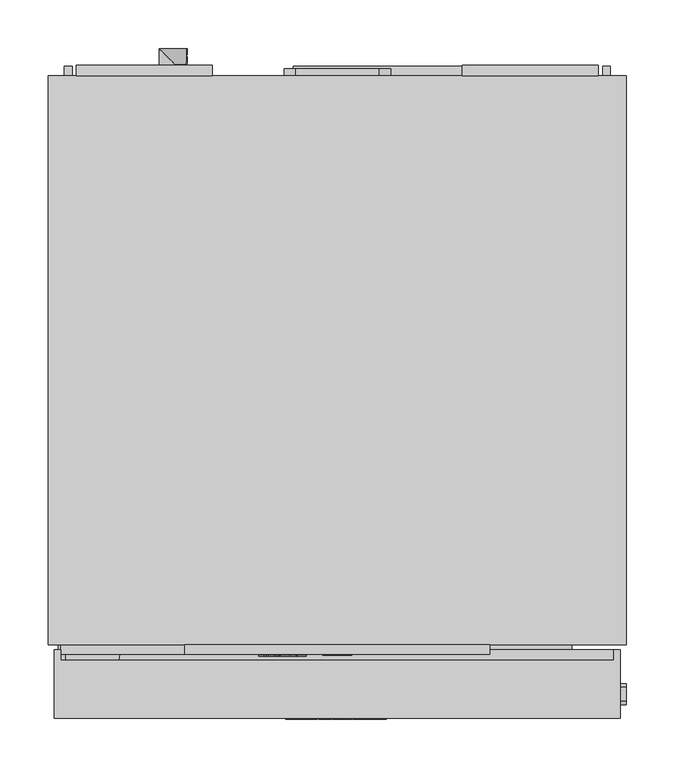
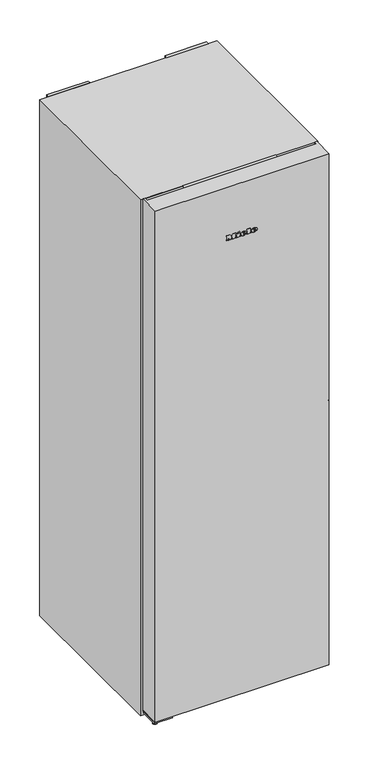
"""IFC4 building model written with IfcOpenShell, lengths in millimetres: proxy geometry, 12430730_EU1_FNS4782D_OBSWMATT : 37478248_EU1_12430730_FNS4782D_OBSWMATT."""

from ifc_helpers import new_model, si_unit, point, frame, frame_2d, origin, origin_with_axes, place, context, project, spatial, polyline, circle_curve, ellipse_curve, trimmed, segment, composite_curve, outline, extrude, faceted_brep, source, transform, mapped, element, save
from ifc_brep_helpers import plane_surface, cylinder_surface, revolved_surface, extruded_surface, advanced_brep


def specialty_equipment_b1ce785e(model_context):
    return source(origin(), model_context, "Body", "SolidModel", [
        extrude(outline(polyline([(15.0, -609.5), (-15.0, -609.5), (-15.0, -606.5), (15.0, -606.5), (15.0, -609.5)])), frame((0.0, 0.0, 1812.0), z_axis=(0.0, 0.0, 1.0), x_axis=(1.0, 0.0, 0.0)), (0.0, 0.0, 1.0), 28.0),
        extrude(outline(polyline([(1845.5, 105.0), (1845.5, -105.0), (1806.5, -105.0), (1806.5, 105.0), (1845.5, 105.0)]), holes=[polyline([(1840.0, -15.0), (1840.0, 15.0), (1812.0, 15.0), (1812.0, -15.0), (1840.0, -15.0)])]), frame((0.0, -608.5, 0.0), z_axis=(0.0, 1.0, 0.0), x_axis=(0.0, 0.0, 1.0)), (0.0, 0.0, 1.0), 2.0),
        faceted_brep([(157.5, -598.5, 1802.0), (157.5, -608.5, 1802.0), (-157.5, -608.5, 1802.0), (-157.5, -598.5, 1802.0), (157.5, -598.5, 1850.0), (-157.5, -598.5, 1850.0), (-157.5, -608.5, 1850.0), (157.5, -608.5, 1850.0), (-105.0, -608.5, 1845.5), (105.0, -608.5, 1845.5), (105.0, -608.5, 1806.5), (-105.0, -608.5, 1806.5), (105.0, -606.5, 1845.5), (-105.0, -606.5, 1845.5), (-105.0, -606.5, 1806.5), (105.0, -606.5, 1806.5)], [[[0, 1, 2, 3]], [[4, 5, 6, 7]], [[0, 3, 5, 4]], [[3, 2, 6, 5]], [[2, 1, 7, 6], [8, 9, 10, 11]], [[1, 0, 4, 7]], [[12, 13, 14, 15]], [[13, 12, 9, 8]], [[14, 13, 8, 11]], [[15, 14, 11, 10]], [[12, 15, 10, 9]]]),
        advanced_brep(
        [(39.0804776, -675.5, 1668.7956125), (39.0804776, -675.5, 1670.5126125), (50.4534776, -675.5, 1670.5126125), (30.6654776, -675.5, 1670.5126125), (35.3404776, -675.5, 1664.7666125), (50.1644776, -675.5, 1668.7956125), (45.0304776, -675.5, 1668.7956125), (40.9844776, -675.5, 1666.8916125), (39.0804776, -675.5, 1672.6886125), (39.0804776, -675.5, 1674.5416125), (41.9874776, -675.5, 1674.5416125), (41.9874776, -675.5, 1672.6886125), (39.0804776, -674.5, 1668.7956125), (40.9844776, -674.5, 1666.8916125), (45.0304776, -674.5, 1668.7956125), (50.1644776, -674.5, 1668.7956125), (35.3404776, -674.5, 1664.7666125), (30.6654776, -674.5, 1670.5126125), (50.4534776, -674.5, 1670.5126125), (39.0804776, -674.5, 1670.5126125), (39.0804776, -674.5, 1672.6886125), (41.9874776, -674.5, 1672.6886125), (41.9874776, -674.5, 1674.5416125), (39.0804776, -674.5, 1674.5416125)],
        [
            (0, 1),
            (1, 2),
            (2, 3, ellipse_curve(frame((40.5594776, -675.5, 1670.5126125), z_axis=(0.0, -1.0, 0.0), x_axis=(-1.0, 0.0, 0.0)), 9.894, 8.177)),
            (3, 4, circle_curve(frame((37.2445704, -675.5, 1671.0906125), z_axis=(0.0, -1.0, 0.0), x_axis=(0.0, 0.0, -1.0)), 6.6044337)),
            (4, 5, circle_curve(frame((40.361414, -675.5, 1675.5786125), z_axis=(0.0, -1.0, 0.0), x_axis=(0.0, 0.0, -1.0)), 11.9209541)),
            (5, 6),
            (6, 7, circle_curve(frame((41.8154776, -675.5, 1670.3766125), z_axis=(0.0, 1.0, 0.0), x_axis=(0.0, 0.0, -1.0)), 3.5827065)),
            (7, 0, circle_curve(frame((40.9844776, -675.5, 1668.7956125), z_axis=(0.0, 1.0, 0.0), x_axis=(0.0, 0.0, -1.0)), 1.904)),
            (8, 9),
            (9, 10, circle_curve(frame((40.5339776, -675.5, 1674.5416125), z_axis=(0.0, 1.0, 0.0), x_axis=(0.0, 0.0, -1.0)), 1.4535)),
            (10, 11),
            (11, 8),
            (12, 13, circle_curve(frame((40.9844776, -674.5, 1668.7956125), z_axis=(0.0, -1.0, 0.0), x_axis=(0.0, 0.0, -1.0)), 1.904)),
            (13, 14, circle_curve(frame((41.8154776, -674.5, 1670.3766125), z_axis=(0.0, -1.0, 0.0), x_axis=(0.0, 0.0, -1.0)), 3.5827065)),
            (14, 15),
            (15, 16, circle_curve(frame((40.361414, -674.5, 1675.5786125), z_axis=(0.0, 1.0, 0.0), x_axis=(0.0, 0.0, -1.0)), 11.9209541)),
            (16, 17, circle_curve(frame((37.2445704, -674.5, 1671.0906125), z_axis=(0.0, 1.0, 0.0), x_axis=(0.0, 0.0, -1.0)), 6.6044337)),
            (17, 18, ellipse_curve(frame((40.5594776, -674.5, 1670.5126125), z_axis=(0.0, 1.0, 0.0), x_axis=(-1.0, 0.0, 0.0)), 9.894, 8.177)),
            (18, 19),
            (19, 12),
            (20, 21),
            (21, 22),
            (22, 23, circle_curve(frame((40.5339776, -674.5, 1674.5416125), z_axis=(0.0, -1.0, 0.0), x_axis=(0.0, 0.0, -1.0)), 1.4535)),
            (23, 20),
            (0, 12),
            (19, 1),
            (18, 2),
            (5, 15),
            (14, 6),
            (17, 3),
            (13, 7),
            (16, 4),
            (8, 20),
            (23, 9),
            (22, 10),
            (21, 11),
        ],
        [
            plane_surface(frame((39.0804776, -675.5, 1670.5126125), z_axis=(0.0, -1.0, 0.0), x_axis=(0.0, 0.0, 1.0))),
            plane_surface(frame((39.0804776, -674.5, 1670.5126125), z_axis=(0.0, 1.0, 0.0), x_axis=(0.0, 0.0, -1.0))),
            plane_surface(frame((39.0804776, -675.5, 1668.7956125), z_axis=(1.0, 0.0, 0.0), x_axis=(0.0, 1.0, 0.0))),
            plane_surface(frame((39.0804776, -675.5, 1670.5126125), z_axis=(0.0, 0.0, -1.0), x_axis=(0.0, 1.0, 0.0))),
            plane_surface(frame((50.1644776, -675.5, 1668.7956125), z_axis=(0.0, 0.0, 1.0), x_axis=(0.0, 1.0, 0.0))),
            extruded_surface(trimmed(ellipse_curve(frame((40.5594776, -673.5, 1670.5126125), z_axis=(0.0, -1.0, 0.0), x_axis=(-1.0, 0.0, 0.0)), 9.894, 8.177), [point((50.4534776, -673.5, 1670.5126125))], [point((30.6654776, -673.5, 1670.5126125))], True, "CARTESIAN"), (0.0, -1.0, 0.0), 1.0),
            revolved_surface(polyline([(41.8154776, -674.5, 1666.7939059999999), (41.8154776, -675.5, 1666.7939059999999)]), (41.8154776, -674.5, 1670.3766125), (0.0, 1.0, 0.0)),
            revolved_surface(polyline([(40.9844776, -674.5, 1666.8916125), (40.9844776, -675.5, 1666.8916125)]), (40.9844776, -674.5, 1668.7956125), (0.0, 1.0, 0.0)),
            cylinder_surface(frame((37.2445704, -674.5, 1671.0906125), z_axis=(0.0, -1.0, 0.0), x_axis=(0.0, 0.0, -1.0)), 6.6044337),
            cylinder_surface(frame((40.361414, -674.5, 1675.5786125), z_axis=(0.0, -1.0, 0.0), x_axis=(0.0, 0.0, -1.0)), 11.9209541),
            plane_surface(frame((39.0804776, -675.5, 1672.6886125), z_axis=(1.0, 0.0, 0.0), x_axis=(0.0, 1.0, 0.0))),
            revolved_surface(polyline([(40.5339776, -674.5, 1673.0881124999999), (40.5339776, -675.5, 1673.0881124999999)]), (40.5339776, -674.5, 1674.5416125), (0.0, 1.0, 0.0)),
            plane_surface(frame((41.9874776, -675.5, 1674.5416125), z_axis=(-1.0, 0.0, 0.0), x_axis=(0.0, 1.0, 0.0))),
            plane_surface(frame((41.9874776, -675.5, 1672.6886125), z_axis=(0.0, 0.0, 1.0), x_axis=(0.0, 1.0, 0.0))),
        ],
        [
            (0, [[1, 2, 3, 4, 5, 6, 7, 8], [9, 10, 11, 12]]),
            (1, [[13, 14, 15, 16, 17, 18, 19, 20], [21, 22, 23, 24]]),
            (2, [[-1, 25, -20, 26]]),
            (3, [[-2, -26, -19, 27]]),
            (4, [[-6, 28, -15, 29]]),
            (5, [[-3, -27, -18, 30]]),
            (6, [[-7, -29, -14, 31]]),
            (7, [[-8, -31, -13, -25]]),
            (8, [[-4, -30, -17, 32]]),
            (9, [[-5, -32, -16, -28]]),
            (10, [[-9, 33, -24, 34]]),
            (11, [[-10, -34, -23, 35]]),
            (12, [[-11, -35, -22, 36]]),
            (13, [[-12, -36, -21, -33]]),
        ],
    ),
        advanced_brep(
        [(3.6014776, -675.5, 1668.7956125), (3.6014776, -675.5, 1670.5126125), (14.9744776, -675.5, 1670.5126125), (-4.8135224, -675.5, 1670.5126125), (-0.1385224, -675.5, 1664.7666125), (14.6854776, -675.5, 1668.7956125), (9.5514776, -675.5, 1668.7956125), (5.5054776, -675.5, 1666.8916125), (3.6014776, -675.5, 1672.6886125), (3.6014776, -675.5, 1674.5416125), (6.5084776, -675.5, 1674.5416125), (6.5084776, -675.5, 1672.6886125), (3.6014776, -674.5, 1668.7956125), (5.5054776, -674.5, 1666.8916125), (9.5514776, -674.5, 1668.7956125), (14.6854776, -674.5, 1668.7956125), (-0.1385224, -674.5, 1664.7666125), (-4.8135224, -674.5, 1670.5126125), (14.9744776, -674.5, 1670.5126125), (3.6014776, -674.5, 1670.5126125), (3.6014776, -674.5, 1672.6886125), (6.5084776, -674.5, 1672.6886125), (6.5084776, -674.5, 1674.5416125), (3.6014776, -674.5, 1674.5416125)],
        [
            (0, 1),
            (1, 2),
            (2, 3, ellipse_curve(frame((5.0804776, -675.5, 1670.5126125), z_axis=(0.0, -1.0, 0.0), x_axis=(-1.0, 0.0, 0.0)), 9.894, 8.177)),
            (3, 4, circle_curve(frame((1.7655704, -675.5, 1671.0906125), z_axis=(0.0, -1.0, 0.0), x_axis=(0.0, 0.0, -1.0)), 6.6044337)),
            (4, 5, circle_curve(frame((4.882414, -675.5, 1675.5786125), z_axis=(0.0, -1.0, 0.0), x_axis=(0.0, 0.0, -1.0)), 11.9209541)),
            (5, 6),
            (6, 7, circle_curve(frame((6.3364776, -675.5, 1670.3766125), z_axis=(0.0, 1.0, 0.0), x_axis=(0.0, 0.0, -1.0)), 3.5827065)),
            (7, 0, circle_curve(frame((5.5054776, -675.5, 1668.7956125), z_axis=(0.0, 1.0, 0.0), x_axis=(0.0, 0.0, -1.0)), 1.904)),
            (8, 9),
            (9, 10, circle_curve(frame((5.0549776, -675.5, 1674.5416125), z_axis=(0.0, 1.0, 0.0), x_axis=(0.0, 0.0, -1.0)), 1.4535)),
            (10, 11),
            (11, 8),
            (12, 13, circle_curve(frame((5.5054776, -674.5, 1668.7956125), z_axis=(0.0, -1.0, 0.0), x_axis=(0.0, 0.0, -1.0)), 1.904)),
            (13, 14, circle_curve(frame((6.3364776, -674.5, 1670.3766125), z_axis=(0.0, -1.0, 0.0), x_axis=(0.0, 0.0, -1.0)), 3.5827065)),
            (14, 15),
            (15, 16, circle_curve(frame((4.882414, -674.5, 1675.5786125), z_axis=(0.0, 1.0, 0.0), x_axis=(0.0, 0.0, -1.0)), 11.9209541)),
            (16, 17, circle_curve(frame((1.7655704, -674.5, 1671.0906125), z_axis=(0.0, 1.0, 0.0), x_axis=(0.0, 0.0, -1.0)), 6.6044337)),
            (17, 18, ellipse_curve(frame((5.0804776, -674.5, 1670.5126125), z_axis=(0.0, 1.0, 0.0), x_axis=(-1.0, 0.0, 0.0)), 9.894, 8.177)),
            (18, 19),
            (19, 12),
            (20, 21),
            (21, 22),
            (22, 23, circle_curve(frame((5.0549776, -674.5, 1674.5416125), z_axis=(0.0, -1.0, 0.0), x_axis=(0.0, 0.0, -1.0)), 1.4535)),
            (23, 20),
            (0, 12),
            (19, 1),
            (18, 2),
            (5, 15),
            (14, 6),
            (17, 3),
            (13, 7),
            (16, 4),
            (8, 20),
            (23, 9),
            (22, 10),
            (21, 11),
        ],
        [
            plane_surface(frame((3.6014776, -675.5, 1670.5126125), z_axis=(0.0, -1.0, 0.0), x_axis=(0.0, 0.0, 1.0))),
            plane_surface(frame((3.6014776, -674.5, 1670.5126125), z_axis=(0.0, 1.0, 0.0), x_axis=(0.0, 0.0, -1.0))),
            plane_surface(frame((3.6014776, -675.5, 1668.7956125), z_axis=(1.0, 0.0, 0.0), x_axis=(0.0, 1.0, 0.0))),
            plane_surface(frame((3.6014776, -675.5, 1670.5126125), z_axis=(0.0, 0.0, -1.0), x_axis=(0.0, 1.0, 0.0))),
            plane_surface(frame((14.6854776, -675.5, 1668.7956125), z_axis=(0.0, 0.0, 1.0), x_axis=(0.0, 1.0, 0.0))),
            extruded_surface(trimmed(ellipse_curve(frame((5.0804776, -673.5, 1670.5126125), z_axis=(0.0, -1.0, 0.0), x_axis=(-1.0, 0.0, 0.0)), 9.894, 8.177), [point((14.9744776, -673.5, 1670.5126125))], [point((-4.8135224, -673.5, 1670.5126125))], True, "CARTESIAN"), (0.0, -1.0, 0.0), 1.0),
            revolved_surface(polyline([(6.3364776, -674.5, 1666.7939059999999), (6.3364776, -675.5, 1666.7939059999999)]), (6.3364776, -674.5, 1670.3766125), (0.0, 1.0, 0.0)),
            revolved_surface(polyline([(5.5054776, -674.5, 1666.8916125), (5.5054776, -675.5, 1666.8916125)]), (5.5054776, -674.5, 1668.7956125), (0.0, 1.0, 0.0)),
            cylinder_surface(frame((1.7655704, -674.5, 1671.0906125), z_axis=(0.0, -1.0, 0.0), x_axis=(0.0, 0.0, -1.0)), 6.6044337),
            cylinder_surface(frame((4.882414, -674.5, 1675.5786125), z_axis=(0.0, -1.0, 0.0), x_axis=(0.0, 0.0, -1.0)), 11.9209541),
            plane_surface(frame((3.6014776, -675.5, 1672.6886125), z_axis=(1.0, 0.0, 0.0), x_axis=(0.0, 1.0, 0.0))),
            revolved_surface(polyline([(5.0549776, -674.5, 1673.0881124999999), (5.0549776, -675.5, 1673.0881124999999)]), (5.0549776, -674.5, 1674.5416125), (0.0, 1.0, 0.0)),
            plane_surface(frame((6.5084776, -675.5, 1674.5416125), z_axis=(-1.0, 0.0, 0.0), x_axis=(0.0, 1.0, 0.0))),
            plane_surface(frame((6.5084776, -675.5, 1672.6886125), z_axis=(0.0, 0.0, 1.0), x_axis=(0.0, 1.0, 0.0))),
        ],
        [
            (0, [[1, 2, 3, 4, 5, 6, 7, 8], [9, 10, 11, 12]]),
            (1, [[13, 14, 15, 16, 17, 18, 19, 20], [21, 22, 23, 24]]),
            (2, [[-1, 25, -20, 26]]),
            (3, [[-2, -26, -19, 27]]),
            (4, [[-6, 28, -15, 29]]),
            (5, [[-3, -27, -18, 30]]),
            (6, [[-7, -29, -14, 31]]),
            (7, [[-8, -31, -13, -25]]),
            (8, [[-4, -30, -17, 32]]),
            (9, [[-5, -32, -16, -28]]),
            (10, [[-9, 33, -24, 34]]),
            (11, [[-10, -34, -23, 35]]),
            (12, [[-11, -35, -22, 36]]),
            (13, [[-12, -36, -21, -33]]),
        ],
    ),
        extrude(outline(polyline([(1680.7636125, -14.9795224), (1678.0096125, -13.6875224), (1680.6956125, -7.9245224), (1683.4496125, -9.1995224), (1680.7636125, -14.9795224)])), frame((0.0, -675.5, 0.0), z_axis=(0.0, 1.0, 0.0), x_axis=(0.0, 0.0, 1.0)), (0.0, 0.0, 1.0), 1.0),
        extrude(outline(polyline([(1677.6356125, -19.1785224), (1674.5926125, -19.1785224), (1674.5926125, -17.1555224), (1667.6226125, -17.1555224), (1667.6226125, -19.1785224), (1664.7666125, -19.1785224), (1664.7666125, -5.7655224), (1667.6226125, -5.7655224), (1667.6226125, -7.7375224), (1677.6356125, -7.7375224), (1677.6356125, -19.1785224)])), frame((0.0, -675.5, 0.0), z_axis=(0.0, 1.0, 0.0), x_axis=(0.0, 0.0, 1.0)), (0.0, 0.0, 1.0), 1.0),
        extrude(outline(polyline([(1678.9956125, 15.9264776), (1678.9956125, 17.9664776), (1667.6226125, 17.9664776), (1667.6226125, 15.9264776), (1664.7666125, 15.9264776), (1664.7666125, 29.7134776), (1667.6226125, 29.7134776), (1667.6226125, 27.6224776), (1681.7666125, 27.6224776), (1681.7666125, 15.9264776), (1678.9956125, 15.9264776)])), frame((0.0, -675.5, 0.0), z_axis=(0.0, 1.0, 0.0), x_axis=(0.0, 0.0, 1.0)), (0.0, 0.0, 1.0), 1.0),
        extrude(outline(polyline([(1678.9956125, -53.0595224), (1678.9956125, -51.0025224), (1667.6226125, -51.0025224), (1667.6226125, -53.0595224), (1664.7666125, -53.0595224), (1664.7666125, -45.5795224), (1667.6226125, -45.5795224), (1667.6226125, -47.6195224), (1674.7967372, -47.6195224), (1664.7666125, -40.0205224), (1675.2068348, -32.3875224), (1667.6226125, -32.3875224), (1667.6226125, -34.4785224), (1664.7666125, -34.4785224), (1664.7666125, -20.9125224), (1667.6226125, -20.9125224), (1667.6226125, -23.0715224), (1678.9956125, -23.0715224), (1678.9956125, -20.9125224), (1681.7666125, -20.9125224), (1681.7666125, -31.2655224), (1675.3916125, -36.2295224), (1681.7666125, -41.2105224), (1681.7666125, -53.0595224), (1678.9956125, -53.0595224)])), frame((0.0, -675.5, 0.0), z_axis=(0.0, 1.0, 0.0), x_axis=(0.0, 0.0, 1.0)), (0.0, 0.0, 1.0), 1.0),
        advanced_brep(
        [(-37.64, -610.5, 1828.896), (-37.64, -610.5, 1829.704), (-32.288, -610.5, 1829.704), (-41.6, -610.5, 1829.704), (-39.4, -610.5, 1827.0), (-32.424, -610.5, 1828.896), (-34.84, -610.5, 1828.896), (-36.744, -610.5, 1828.0), (-37.64, -610.5, 1830.728), (-37.64, -610.5, 1831.6), (-36.272, -610.5, 1831.6), (-36.272, -610.5, 1830.728), (-37.64, -609.5, 1828.896), (-36.744, -609.5, 1828.0), (-34.84, -609.5, 1828.896), (-32.424, -609.5, 1828.896), (-39.4, -609.5, 1827.0), (-41.6, -609.5, 1829.704), (-32.288, -609.5, 1829.704), (-37.64, -609.5, 1829.704), (-37.64, -609.5, 1830.728), (-36.272, -609.5, 1830.728), (-36.272, -609.5, 1831.6), (-37.64, -609.5, 1831.6)],
        [
            (0, 1),
            (1, 2),
            (2, 3, ellipse_curve(frame((-36.944, -610.5, 1829.704), z_axis=(0.0, -1.0, 0.0), x_axis=(-1.0, 0.0, 0.0)), 4.656, 3.848)),
            (3, 4, circle_curve(frame((-38.5039564, -610.5, 1829.976), z_axis=(0.0, -1.0, 0.0), x_axis=(0.0, 0.0, -1.0)), 3.1079688)),
            (4, 5, circle_curve(frame((-37.0372064, -610.5, 1832.088), z_axis=(0.0, -1.0, 0.0), x_axis=(0.0, 0.0, -1.0)), 5.6098607)),
            (5, 6),
            (6, 7, circle_curve(frame((-36.3529412, -610.5, 1829.64), z_axis=(0.0, 1.0, 0.0), x_axis=(0.0, 0.0, -1.0)), 1.6859795)),
            (7, 0, circle_curve(frame((-36.744, -610.5, 1828.896), z_axis=(0.0, 1.0, 0.0), x_axis=(0.0, 0.0, -1.0)), 0.896)),
            (8, 9),
            (9, 10, circle_curve(frame((-36.956, -610.5, 1831.6), z_axis=(0.0, 1.0, 0.0), x_axis=(0.0, 0.0, -1.0)), 0.684)),
            (10, 11),
            (11, 8),
            (12, 13, circle_curve(frame((-36.744, -609.5, 1828.896), z_axis=(0.0, -1.0, 0.0), x_axis=(0.0, 0.0, -1.0)), 0.896)),
            (13, 14, circle_curve(frame((-36.3529412, -609.5, 1829.64), z_axis=(0.0, -1.0, 0.0), x_axis=(0.0, 0.0, -1.0)), 1.6859795)),
            (14, 15),
            (15, 16, circle_curve(frame((-37.0372064, -609.5, 1832.088), z_axis=(0.0, 1.0, 0.0), x_axis=(0.0, 0.0, -1.0)), 5.6098607)),
            (16, 17, circle_curve(frame((-38.5039564, -609.5, 1829.976), z_axis=(0.0, 1.0, 0.0), x_axis=(0.0, 0.0, -1.0)), 3.1079688)),
            (17, 18, ellipse_curve(frame((-36.944, -609.5, 1829.704), z_axis=(0.0, 1.0, 0.0), x_axis=(-1.0, 0.0, 0.0)), 4.656, 3.848)),
            (18, 19),
            (19, 12),
            (20, 21),
            (21, 22),
            (22, 23, circle_curve(frame((-36.956, -609.5, 1831.6), z_axis=(0.0, -1.0, 0.0), x_axis=(0.0, 0.0, -1.0)), 0.684)),
            (23, 20),
            (0, 12),
            (19, 1),
            (18, 2),
            (5, 15),
            (14, 6),
            (17, 3),
            (13, 7),
            (16, 4),
            (8, 20),
            (23, 9),
            (22, 10),
            (21, 11),
        ],
        [
            plane_surface(frame((-37.64, -610.5, 1829.704), z_axis=(0.0, -1.0, 0.0), x_axis=(0.0, 0.0, 1.0))),
            plane_surface(frame((-37.64, -609.5, 1829.704), z_axis=(0.0, 1.0, 0.0), x_axis=(0.0, 0.0, -1.0))),
            plane_surface(frame((-37.64, -610.5, 1828.896), z_axis=(1.0, 0.0, 0.0), x_axis=(0.0, 1.0, 0.0))),
            plane_surface(frame((-37.64, -610.5, 1829.704), z_axis=(0.0, 0.0, -1.0), x_axis=(0.0, 1.0, 0.0))),
            plane_surface(frame((-32.424, -610.5, 1828.896), z_axis=(0.0, 0.0, 1.0), x_axis=(0.0, 1.0, 0.0))),
            extruded_surface(trimmed(ellipse_curve(frame((-36.944, -608.5, 1829.704), z_axis=(0.0, -1.0, 0.0), x_axis=(-1.0, 0.0, 0.0)), 4.656, 3.848), [point((-32.288, -608.5, 1829.704))], [point((-41.6, -608.5, 1829.704))], True, "CARTESIAN"), (0.0, -1.0, 0.0), 1.0),
            revolved_surface(polyline([(-36.3529412, -609.5, 1827.9540205), (-36.3529412, -610.5, 1827.9540205)]), (-36.3529412, -609.5, 1829.64), (0.0, 1.0, 0.0)),
            revolved_surface(polyline([(-36.744, -609.5, 1828.0), (-36.744, -610.5, 1828.0)]), (-36.744, -609.5, 1828.896), (0.0, 1.0, 0.0)),
            cylinder_surface(frame((-38.5039564, -609.5, 1829.976), z_axis=(0.0, -1.0, 0.0), x_axis=(0.0, 0.0, -1.0)), 3.1079688),
            cylinder_surface(frame((-37.0372064, -609.5, 1832.088), z_axis=(0.0, -1.0, 0.0), x_axis=(0.0, 0.0, -1.0)), 5.6098607),
            plane_surface(frame((-37.64, -610.5, 1830.728), z_axis=(1.0, 0.0, 0.0), x_axis=(0.0, 1.0, 0.0))),
            revolved_surface(polyline([(-36.956, -609.5, 1830.916), (-36.956, -610.5, 1830.916)]), (-36.956, -609.5, 1831.6), (0.0, 1.0, 0.0)),
            plane_surface(frame((-36.272, -610.5, 1831.6), z_axis=(-1.0, 0.0, 0.0), x_axis=(0.0, 1.0, 0.0))),
            plane_surface(frame((-36.272, -610.5, 1830.728), z_axis=(0.0, 0.0, 1.0), x_axis=(0.0, 1.0, 0.0))),
        ],
        [
            (0, [[1, 2, 3, 4, 5, 6, 7, 8], [9, 10, 11, 12]]),
            (1, [[13, 14, 15, 16, 17, 18, 19, 20], [21, 22, 23, 24]]),
            (2, [[-1, 25, -20, 26]]),
            (3, [[-2, -26, -19, 27]]),
            (4, [[-6, 28, -15, 29]]),
            (5, [[-3, -27, -18, 30]]),
            (6, [[-7, -29, -14, 31]]),
            (7, [[-8, -31, -13, -25]]),
            (8, [[-4, -30, -17, 32]]),
            (9, [[-5, -32, -16, -28]]),
            (10, [[-9, 33, -24, 34]]),
            (11, [[-10, -34, -23, 35]]),
            (12, [[-11, -35, -22, 36]]),
            (13, [[-12, -36, -21, -33]]),
        ],
    ),
        advanced_brep(
        [(-54.336, -610.5, 1828.896), (-54.336, -610.5, 1829.704), (-48.984, -610.5, 1829.704), (-58.296, -610.5, 1829.704), (-56.096, -610.5, 1827.0), (-49.12, -610.5, 1828.896), (-51.536, -610.5, 1828.896), (-53.44, -610.5, 1828.0), (-54.336, -610.5, 1830.728), (-54.336, -610.5, 1831.6), (-52.968, -610.5, 1831.6), (-52.968, -610.5, 1830.728), (-54.336, -609.5, 1828.896), (-53.44, -609.5, 1828.0), (-51.536, -609.5, 1828.896), (-49.12, -609.5, 1828.896), (-56.096, -609.5, 1827.0), (-58.296, -609.5, 1829.704), (-48.984, -609.5, 1829.704), (-54.336, -609.5, 1829.704), (-54.336, -609.5, 1830.728), (-52.968, -609.5, 1830.728), (-52.968, -609.5, 1831.6), (-54.336, -609.5, 1831.6)],
        [
            (0, 1),
            (1, 2),
            (2, 3, ellipse_curve(frame((-53.64, -610.5, 1829.704), z_axis=(0.0, -1.0, 0.0), x_axis=(-1.0, 0.0, 0.0)), 4.656, 3.848)),
            (3, 4, circle_curve(frame((-55.1999564, -610.5, 1829.976), z_axis=(0.0, -1.0, 0.0), x_axis=(0.0, 0.0, -1.0)), 3.1079688)),
            (4, 5, circle_curve(frame((-53.7332064, -610.5, 1832.088), z_axis=(0.0, -1.0, 0.0), x_axis=(0.0, 0.0, -1.0)), 5.6098607)),
            (5, 6),
            (6, 7, circle_curve(frame((-53.0489412, -610.5, 1829.64), z_axis=(0.0, 1.0, 0.0), x_axis=(0.0, 0.0, -1.0)), 1.6859795)),
            (7, 0, circle_curve(frame((-53.44, -610.5, 1828.896), z_axis=(0.0, 1.0, 0.0), x_axis=(0.0, 0.0, -1.0)), 0.896)),
            (8, 9),
            (9, 10, circle_curve(frame((-53.652, -610.5, 1831.6), z_axis=(0.0, 1.0, 0.0), x_axis=(0.0, 0.0, -1.0)), 0.684)),
            (10, 11),
            (11, 8),
            (12, 13, circle_curve(frame((-53.44, -609.5, 1828.896), z_axis=(0.0, -1.0, 0.0), x_axis=(0.0, 0.0, -1.0)), 0.896)),
            (13, 14, circle_curve(frame((-53.0489412, -609.5, 1829.64), z_axis=(0.0, -1.0, 0.0), x_axis=(0.0, 0.0, -1.0)), 1.6859795)),
            (14, 15),
            (15, 16, circle_curve(frame((-53.7332064, -609.5, 1832.088), z_axis=(0.0, 1.0, 0.0), x_axis=(0.0, 0.0, -1.0)), 5.6098607)),
            (16, 17, circle_curve(frame((-55.1999564, -609.5, 1829.976), z_axis=(0.0, 1.0, 0.0), x_axis=(0.0, 0.0, -1.0)), 3.1079688)),
            (17, 18, ellipse_curve(frame((-53.64, -609.5, 1829.704), z_axis=(0.0, 1.0, 0.0), x_axis=(-1.0, 0.0, 0.0)), 4.656, 3.848)),
            (18, 19),
            (19, 12),
            (20, 21),
            (21, 22),
            (22, 23, circle_curve(frame((-53.652, -609.5, 1831.6), z_axis=(0.0, -1.0, 0.0), x_axis=(0.0, 0.0, -1.0)), 0.684)),
            (23, 20),
            (0, 12),
            (19, 1),
            (18, 2),
            (5, 15),
            (14, 6),
            (17, 3),
            (13, 7),
            (16, 4),
            (8, 20),
            (23, 9),
            (22, 10),
            (21, 11),
        ],
        [
            plane_surface(frame((-54.336, -610.5, 1829.704), z_axis=(0.0, -1.0, 0.0), x_axis=(0.0, 0.0, 1.0))),
            plane_surface(frame((-54.336, -609.5, 1829.704), z_axis=(0.0, 1.0, 0.0), x_axis=(0.0, 0.0, -1.0))),
            plane_surface(frame((-54.336, -610.5, 1828.896), z_axis=(1.0, 0.0, 0.0), x_axis=(0.0, 1.0, 0.0))),
            plane_surface(frame((-54.336, -610.5, 1829.704), z_axis=(0.0, 0.0, -1.0), x_axis=(0.0, 1.0, 0.0))),
            plane_surface(frame((-49.12, -610.5, 1828.896), z_axis=(0.0, 0.0, 1.0), x_axis=(0.0, 1.0, 0.0))),
            extruded_surface(trimmed(ellipse_curve(frame((-53.64, -608.5, 1829.704), z_axis=(0.0, -1.0, 0.0), x_axis=(-1.0, 0.0, 0.0)), 4.656, 3.848), [point((-48.984, -608.5, 1829.704))], [point((-58.296, -608.5, 1829.704))], True, "CARTESIAN"), (0.0, -1.0, 0.0), 1.0),
            revolved_surface(polyline([(-53.0489412, -609.5, 1827.9540205), (-53.0489412, -610.5, 1827.9540205)]), (-53.0489412, -609.5, 1829.64), (0.0, 1.0, 0.0)),
            revolved_surface(polyline([(-53.44, -609.5, 1828.0), (-53.44, -610.5, 1828.0)]), (-53.44, -609.5, 1828.896), (0.0, 1.0, 0.0)),
            cylinder_surface(frame((-55.1999564, -609.5, 1829.976), z_axis=(0.0, -1.0, 0.0), x_axis=(0.0, 0.0, -1.0)), 3.1079688),
            cylinder_surface(frame((-53.7332064, -609.5, 1832.088), z_axis=(0.0, -1.0, 0.0), x_axis=(0.0, 0.0, -1.0)), 5.6098607),
            plane_surface(frame((-54.336, -610.5, 1830.728), z_axis=(1.0, 0.0, 0.0), x_axis=(0.0, 1.0, 0.0))),
            revolved_surface(polyline([(-53.652, -609.5, 1830.916), (-53.652, -610.5, 1830.916)]), (-53.652, -609.5, 1831.6), (0.0, 1.0, 0.0)),
            plane_surface(frame((-52.968, -610.5, 1831.6), z_axis=(-1.0, 0.0, 0.0), x_axis=(0.0, 1.0, 0.0))),
            plane_surface(frame((-52.968, -610.5, 1830.728), z_axis=(0.0, 0.0, 1.0), x_axis=(0.0, 1.0, 0.0))),
        ],
        [
            (0, [[1, 2, 3, 4, 5, 6, 7, 8], [9, 10, 11, 12]]),
            (1, [[13, 14, 15, 16, 17, 18, 19, 20], [21, 22, 23, 24]]),
            (2, [[-1, 25, -20, 26]]),
            (3, [[-2, -26, -19, 27]]),
            (4, [[-6, 28, -15, 29]]),
            (5, [[-3, -27, -18, 30]]),
            (6, [[-7, -29, -14, 31]]),
            (7, [[-8, -31, -13, -25]]),
            (8, [[-4, -30, -17, 32]]),
            (9, [[-5, -32, -16, -28]]),
            (10, [[-9, 33, -24, 34]]),
            (11, [[-10, -34, -23, 35]]),
            (12, [[-11, -35, -22, 36]]),
            (13, [[-12, -36, -21, -33]]),
        ],
    ),
        extrude(outline(polyline([(1834.528, -63.08), (1833.232, -62.472), (1834.496, -59.76), (1835.792, -60.36), (1834.528, -63.08)])), frame((0.0, -610.5, 0.0), z_axis=(0.0, 1.0, 0.0), x_axis=(0.0, 0.0, 1.0)), (0.0, 0.0, 1.0), 1.0),
        extrude(outline(polyline([(1833.056, -65.056), (1831.624, -65.056), (1831.624, -64.104), (1828.344, -64.104), (1828.344, -65.056), (1827.0, -65.056), (1827.0, -58.744), (1828.344, -58.744), (1828.344, -59.672), (1833.056, -59.672), (1833.056, -65.056)])), frame((0.0, -610.5, 0.0), z_axis=(0.0, 1.0, 0.0), x_axis=(0.0, 0.0, 1.0)), (0.0, 0.0, 1.0), 1.0),
        extrude(outline(polyline([(1833.696, -48.536), (1833.696, -47.576), (1828.344, -47.576), (1828.344, -48.536), (1827.0, -48.536), (1827.0, -42.048), (1828.344, -42.048), (1828.344, -43.032), (1835.0, -43.032), (1835.0, -48.536), (1833.696, -48.536)])), frame((0.0, -610.5, 0.0), z_axis=(0.0, 1.0, 0.0), x_axis=(0.0, 0.0, 1.0)), (0.0, 0.0, 1.0), 1.0),
        extrude(outline(polyline([(1833.696, -81.0), (1833.696, -80.032), (1828.344, -80.032), (1828.344, -81.0), (1827.0, -81.0), (1827.0, -77.48), (1828.344, -77.48), (1828.344, -78.44), (1831.7471247, -78.44), (1827.0, -74.864), (1831.8152223, -71.272), (1828.344, -71.272), (1828.344, -72.256), (1827.0, -72.256), (1827.0, -65.872), (1828.344, -65.872), (1828.344, -66.888), (1833.696, -66.888), (1833.696, -65.872), (1835.0, -65.872), (1835.0, -70.744), (1832.0, -73.08), (1835.0, -75.424), (1835.0, -81.0), (1833.696, -81.0)])), frame((0.0, -610.5, 0.0), z_axis=(0.0, 1.0, 0.0), x_axis=(0.0, 0.0, 1.0)), (0.0, 0.0, 1.0), 1.0),
        extrude(outline(polyline([(-42.8527823, 0.0), (-48.1304417, 3.2708192), (-29.8908031, 3.2708192), (-34.9274229, 0.0), (-42.8527823, 0.0)])), frame((238.5469678, 0.0, 0.0), z_axis=(1.0, 0.0, 0.0), x_axis=(0.0, 1.0, 0.0)), (0.0, 0.0, 1.0), 15.1632647),
        extrude(outline(polyline([(-42.8527823, 0.0), (-48.1304417, 3.2708192), (-29.8908031, 3.2708192), (-34.9274229, 0.0), (-42.8527823, 0.0)])), frame((-253.7102325, 0.0, 0.0), z_axis=(1.0, 0.0, 0.0), x_axis=(0.0, 1.0, 0.0)), (0.0, 0.0, 1.0), 15.1632647),
        extrude(outline(polyline([(2.1227397, 65.0), (2.1227397, 75.045631), (9.343037, 75.045631), (9.343037, 73.7899271), (3.3784436, 73.7899271), (3.3784436, 70.8076304), (9.029111, 70.8076304), (9.029111, 69.5519266), (3.3784436, 69.5519266), (3.3784436, 66.2557039), (9.5, 66.2557039), (9.5, 65.0), (2.1227397, 65.0)])), frame((-156.0615355, 0.0, 0.0), z_axis=(1.0, 0.0, 0.0), x_axis=(0.0, 1.0, 0.0)), (0.0, 0.0, 1.0), 1.0),
        extrude(outline(polyline([(11.3835558, 65.0), (11.3835558, 75.045631), (12.6392597, 75.045631), (12.6392597, 66.2557039), (17.6620752, 66.2557039), (17.6620752, 65.0), (11.3835558, 65.0)])), frame((-156.0615355, 0.0, 0.0), z_axis=(1.0, 0.0, 0.0), x_axis=(0.0, 1.0, 0.0)), (0.0, 0.0, 1.0), 1.0),
        advanced_brep(
        [(-168.0615355, -10.5, 70.0), (-184.0615355, -10.5, 70.0), (-168.0615355, 1.5, 70.0), (-184.0615355, 17.5, 70.0), (-156.0615355, 1.5, 70.0), (-156.0615355, 17.5, 70.0)],
        [
            (0, 1, circle_curve(frame((-176.0615355, -10.5, 70.0), z_axis=(0.0, -1.0, 0.0), x_axis=(-1.0, 0.0, 0.0)), 8.0)),
            (1, 0, circle_curve(frame((-176.0615355, -10.5, 70.0), z_axis=(0.0, -1.0, 0.0), x_axis=(-1.0, 0.0, 0.0)), 8.0)),
            (0, 2),
            (2, 3, ellipse_curve(frame((-176.0615355, 9.5, 70.0), z_axis=(-0.7071067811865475, -0.7071067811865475, 0.0), x_axis=(0.7071067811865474, -0.7071067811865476, 0.0)), 11.3137085, 8.0)),
            (3, 1),
            (3, 2, ellipse_curve(frame((-176.0615355, 9.5, 70.0), z_axis=(-0.7071067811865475, -0.7071067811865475, 0.0), x_axis=(0.7071067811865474, -0.7071067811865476, 0.0)), 11.3137085, 8.0)),
            (4, 5, circle_curve(frame((-156.0615355, 9.5, 70.0), z_axis=(1.0, 0.0, 0.0), x_axis=(0.0, 1.0, 0.0)), 8.0)),
            (5, 4, circle_curve(frame((-156.0615355, 9.5, 70.0), z_axis=(1.0, 0.0, 0.0), x_axis=(0.0, 1.0, 0.0)), 8.0)),
            (2, 4),
            (5, 3),
        ],
        [
            plane_surface(frame((-176.0615355, -10.5, 0.0), z_axis=(0.0, -1.0, 0.0), x_axis=(0.0, 0.0, 1.0))),
            cylinder_surface(frame((-176.0615355, -10.5, 70.0), z_axis=(0.0, -1.0, 0.0), x_axis=(-1.0, 0.0, 0.0)), 8.0),
            plane_surface(frame((-156.0615355, 9.5, 0.0), z_axis=(1.0, 0.0, 0.0), x_axis=(0.0, 0.0, 1.0))),
            cylinder_surface(frame((-176.0615355, 9.5, 70.0), z_axis=(-1.0, 0.0, 0.0), x_axis=(0.0, 1.0, 0.0)), 8.0),
        ],
        [
            (0, [[1, 2]]),
            (1, [[-1, 3, 4, 5]]),
            (1, [[-2, -5, 6, -3]]),
            (2, [[7, 8]]),
            (3, [[-4, 9, -8, 10]]),
            (3, [[-6, -10, -7, -9]]),
        ],
    ),
        extrude(outline(polyline([(-118.9841834, 15.0), (-62.9841834, 15.0), (-75.5706779, 0.0), (-106.3976889, 0.0), (-118.9841834, 15.0)])), frame((-288.5, 0.0, 0.0), z_axis=(1.0, 0.0, 0.0), x_axis=(0.0, 1.0, 0.0)), (0.0, 0.0, 1.0), 16.0),
        extrude(outline(polyline([(-118.9841834, 15.0), (-62.9841834, 15.0), (-75.5706779, 0.0), (-106.3976889, 0.0), (-118.9841834, 15.0)])), frame((272.5, 0.0, 0.0), z_axis=(1.0, 0.0, 0.0), x_axis=(0.0, 1.0, 0.0)), (0.0, 0.0, 1.0), 16.0),
        extrude(outline(polyline([(281.8051758, -10.5), (274.2947998, -10.5), (274.2947998, -0.5), (281.8051758, -0.5), (281.8051758, -10.5)])), frame((0.0, 0.0, 239.4947815), z_axis=(0.0, 0.0, 1.0), x_axis=(1.0, 0.0, 0.0)), (0.0, 0.0, 1.0), 18.4103699),
        extrude(outline(polyline([(-274.0827332, -10.5), (-282.1051331, -10.5), (-282.1051331, -0.5), (-274.0827332, -0.5), (-274.0827332, -10.5)])), frame((0.0, 0.0, 239.4947815), z_axis=(0.0, 0.0, 1.0), x_axis=(1.0, 0.0, 0.0)), (0.0, 0.0, 1.0), 18.3224792),
        extrude(outline(polyline([(190.0, 177.5), (133.0, 177.5), (133.0, -45.5), (64.0, -45.5), (64.0, 258.5), (190.0, 258.5), (190.0, 177.5)])), frame((0.0, -10.5, 0.0), z_axis=(0.0, 1.0, 0.0), x_axis=(0.0, 0.0, 1.0)), (0.0, 0.0, 1.0), 10.0),
        extrude(outline(polyline([(269.5372046, -10.5), (129.0, -10.5), (129.0, 0.0), (269.5372046, 0.0), (269.5372046, -10.5)])), frame((0.0, 0.0, 1826.0), z_axis=(0.0, 0.0, 1.0), x_axis=(1.0, 0.0, 0.0)), (0.0, 0.0, 1.0), 24.0),
        extrude(outline(polyline([(-129.0, -10.5), (-269.5372046, -10.5), (-269.5372046, 0.0), (-129.0, 0.0), (-129.0, -10.5)])), frame((0.0, 0.0, 1826.0), z_axis=(0.0, 0.0, 1.0), x_axis=(1.0, 0.0, 0.0)), (0.0, 0.0, 1.0), 24.0),
        extrude(outline(polyline([(64.0, -159.5), (-64.0, -159.5), (-64.0, -71.5), (64.0, -71.5), (64.0, -159.5)])), frame((0.0, 0.0, 1636.0), z_axis=(0.0, 0.0, 1.0), x_axis=(1.0, 0.0, 0.0)), (0.0, 0.0, 1.0), 177.6535004),
        extrude(outline(polyline([(55.0, -521.5), (55.0, -575.5), (-55.0, -575.5), (-55.0, -521.5), (55.0, -521.5)])), frame((0.0, 0.0, 1759.0), z_axis=(0.0, 0.0, 1.0), x_axis=(1.0, 0.0, 0.0)), (0.0, 0.0, 1.0), 1.0),
        extrude(outline(composite_curve([segment(trimmed(circle_curve(frame_2d((-248.75, -584.5)), 10.0), [point((-258.75, -584.5))], [point((-238.75, -584.5))], False, "CARTESIAN"), True, "CONTINUOUS"), segment(trimmed(circle_curve(frame_2d((-248.75, -584.5)), 10.0), [point((-238.75, -584.5))], [point((-258.75, -584.5))], False, "CARTESIAN"), True, "CONTINUOUS")], self_intersect=False)), origin_with_axes(), (0.0, 0.0, 1.0), 15.0),
        extrude(outline(composite_curve([segment(trimmed(circle_curve(frame_2d((248.75, -584.4761218)), 10.0), [point((238.75, -584.4761218))], [point((258.75, -584.4761218))], False, "CARTESIAN"), True, "CONTINUOUS"), segment(trimmed(circle_curve(frame_2d((248.75, -584.4761218)), 10.0), [point((258.75, -584.4761218))], [point((238.75, -584.4761218))], False, "CARTESIAN"), True, "CONTINUOUS")], self_intersect=False)), origin_with_axes(), (0.0, 0.0, 1.0), 15.0),
        extrude(outline(polyline([(240.0, -290.5), (-240.0, -290.5), (-240.0, -71.5), (240.0, -71.5), (240.0, -290.5)])), frame((0.0, 0.0, 129.0), z_axis=(0.0, 0.0, 1.0), x_axis=(1.0, 0.0, 0.0)), (0.0, 0.0, 1.0), 190.0),
        extrude(outline(composite_curve([segment(trimmed(circle_curve(frame_2d((1162.0, -43.0)), 12.0), [point((1174.0, -43.0))], [point((1162.0, -55.0))], False, "CARTESIAN"), True, "CONTINUOUS"), segment(polyline([(1162.0, -55.0), (1138.0, -55.0)]), True, "CONTINUOUS"), segment(trimmed(circle_curve(frame_2d((1138.0, -43.0)), 12.0), [point((1138.0, -55.0))], [point((1126.0, -43.0))], False, "CARTESIAN"), True, "CONTINUOUS"), segment(polyline([(1126.0, -43.0), (1126.0, 43.0)]), True, "CONTINUOUS"), segment(trimmed(circle_curve(frame_2d((1138.0, 43.0)), 12.0), [point((1126.0, 43.0))], [point((1138.0, 55.0))], False, "CARTESIAN"), True, "CONTINUOUS"), segment(polyline([(1138.0, 55.0), (1162.0, 55.0)]), True, "CONTINUOUS"), segment(trimmed(circle_curve(frame_2d((1162.0, 43.0)), 12.0), [point((1162.0, 55.0))], [point((1174.0, 43.0))], False, "CARTESIAN"), True, "CONTINUOUS"), segment(polyline([(1174.0, 43.0), (1174.0, -43.0)]), True, "CONTINUOUS")], self_intersect=False)), frame((0.0, -10.5, 0.0), z_axis=(0.0, 1.0, 0.0), x_axis=(0.0, 0.0, 1.0)), (0.0, 0.0, 1.0), 7.0),
        extrude(outline(polyline([(272.5, -28.6436023), (272.5, -529.6387407), (-272.5, -529.6387407), (-272.5, -28.6436023), (272.5, -28.6436023)])), frame((0.0, 0.0, 3.2708192), z_axis=(0.0, 0.0, 1.0), x_axis=(1.0, 0.0, 0.0)), (0.0, 0.0, 1.0), 11.7291808),
        faceted_brep([(298.5, -10.5, 1850.0), (-298.5, -10.5, 1850.0), (-298.5, -598.5, 1850.0), (298.5, -598.5, 1850.0), (298.5, -10.5, 15.0), (298.5, -598.5, 15.0), (-298.5, -598.5, 15.0), (-298.5, -10.5, 15.0), (-240.0, -598.5, 1760.0), (240.0, -598.5, 1760.0), (240.0, -598.5, 129.0), (-240.0, -598.5, 129.0), (-240.0, -468.5, 1760.0), (240.0, -468.5, 1760.0), (240.0, -71.5, 129.0), (-240.0, -71.5, 129.0), (240.0, -71.5, 1813.6535004), (-240.0, -71.5, 1813.6535004), (-240.0, -468.5, 1813.6535004), (240.0, -468.5, 1813.6535004)], [[[0, 1, 2, 3]], [[4, 5, 6, 7]], [[1, 0, 4, 7]], [[2, 1, 7, 6]], [[3, 2, 6, 5], [8, 9, 10, 11]], [[0, 3, 5, 4]], [[9, 8, 12, 13]], [[14, 15, 11, 10]], [[15, 14, 16, 17]], [[15, 17, 18, 12, 8, 11]], [[16, 14, 10, 9, 13, 19]], [[19, 18, 17, 16]], [[18, 19, 13, 12]]]),
        extrude(outline(polyline([(-620.5, 1234.0), (-620.5, 1132.5), (-638.382514, 1132.5), (-638.382514, 990.4237165), (-620.5, 990.4237165), (-620.5, 891.0), (-660.5, 891.0), (-660.5, 1234.0), (-620.5, 1234.0)])), frame((262.5, 0.0, 0.0), z_axis=(1.0, 0.0, 0.0), x_axis=(0.0, 1.0, 0.0)), (0.0, 0.0, 1.0), 30.0),
        extrude(outline(composite_curve([segment(polyline([(-638.5, 1158.0), (-638.5, 967.0)]), True, "CONTINUOUS"), segment(trimmed(circle_curve(frame_2d((-642.5, 967.0)), 4.0), [point((-638.5, 967.0))], [point((-642.5, 963.0))], False, "CARTESIAN"), True, "CONTINUOUS"), segment(polyline([(-642.5, 963.0), (-656.5, 963.0)]), True, "CONTINUOUS"), segment(trimmed(circle_curve(frame_2d((-656.5, 967.0)), 4.0), [point((-656.5, 963.0))], [point((-660.5, 967.0))], False, "CARTESIAN"), True, "CONTINUOUS"), segment(polyline([(-660.5, 967.0), (-660.5, 1158.0)]), True, "CONTINUOUS"), segment(trimmed(circle_curve(frame_2d((-656.5, 1158.0)), 4.0), [point((-660.5, 1158.0))], [point((-656.5, 1162.0))], False, "CARTESIAN"), True, "CONTINUOUS"), segment(polyline([(-656.5, 1162.0), (-642.5, 1162.0)]), True, "CONTINUOUS"), segment(trimmed(circle_curve(frame_2d((-642.5, 1158.0)), 4.0), [point((-642.5, 1162.0))], [point((-638.5, 1158.0))], False, "CARTESIAN"), True, "CONTINUOUS")], self_intersect=False)), frame((292.5, 0.0, 0.0), z_axis=(1.0, 0.0, 0.0), x_axis=(0.0, 1.0, 0.0)), (0.0, 0.0, 1.0), 6.0),
        extrude(outline(composite_curve([segment(trimmed(circle_curve(frame_2d((-276.9539666, -644.7854989)), 7.0), [point((-269.9539666, -644.7854989))], [point((-283.9539666, -644.7854989))], False, "CARTESIAN"), True, "CONTINUOUS"), segment(trimmed(circle_curve(frame_2d((-276.9539666, -644.7854989)), 7.0), [point((-283.9539666, -644.7854989))], [point((-269.9539666, -644.7854989))], False, "CARTESIAN"), True, "CONTINUOUS")], self_intersect=False)), frame((0.0, 0.0, 10.0), z_axis=(0.0, 0.0, 1.0), x_axis=(1.0, 0.0, 0.0)), (0.0, 0.0, 1.0), 11.0),
        extrude(outline(polyline([(-227.8680756, -660.5), (-291.8779467, -660.5), (-291.8779467, -603.5), (-227.8680756, -603.5), (-227.8680756, -660.5)])), frame((0.0, 0.0, 31.5014777), z_axis=(0.0, 0.0, 1.0), x_axis=(1.0, 0.0, 0.0)), (0.0, 0.0, 1.0), 4.4985223),
        extrude(outline(composite_curve([segment(trimmed(circle_curve(frame_2d((-274.5, -642.5)), 10.0), [point((-264.5, -642.5))], [point((-284.5, -642.5))], False, "CARTESIAN"), True, "CONTINUOUS"), segment(trimmed(circle_curve(frame_2d((-274.5, -642.5)), 10.0), [point((-284.5, -642.5))], [point((-264.5, -642.5))], False, "CARTESIAN"), True, "CONTINUOUS")], self_intersect=False)), frame((0.0, 0.0, 27.5), z_axis=(0.0, 0.0, 1.0), x_axis=(1.0, 0.0, 0.0)), (0.0, 0.0, 1.0), 4.5),
        extrude(outline(polyline([(242.0, -603.5), (-242.0, -603.5), (-242.0, -598.5), (242.0, -598.5), (242.0, -603.5)])), frame((0.0, 0.0, 128.0014777), z_axis=(0.0, 0.0, 1.0), x_axis=(1.0, 0.0, 0.0)), (0.0, 0.0, 1.0), 1639.0),
        extrude(outline(polyline([(-233.3907627, -657.6644264), (-282.5, -657.6644264), (-280.684623, -608.5), (-224.7217479, -608.5), (-233.3907627, -657.6644264)])), frame((0.0, 0.0, 1817.6745089), z_axis=(0.0, 0.0, 1.0), x_axis=(1.0, 0.0, 0.0)), (0.0, 0.0, 1.0), 23.7898602),
        extrude(outline(polyline([(-157.5, -608.5), (-285.5, -608.5), (-285.5, -598.5), (-157.5, -598.5), (-157.5, -608.5)])), frame((0.0, 0.0, 1800.5014777), z_axis=(0.0, 0.0, 1.0), x_axis=(1.0, 0.0, 0.0)), (0.0, 0.0, 1.0), 48.0),
        extrude(outline(polyline([(-598.5, 21.0), (-660.5, 21.0), (-660.5, 27.0014777), (-603.5, 27.0014777), (-603.5, 69.0014777), (-598.5, 69.0014777), (-598.5, 21.0)])), frame((-288.5, 0.0, 0.0), z_axis=(1.0, 0.0, 0.0), x_axis=(0.0, 1.0, 0.0)), (0.0, 0.0, 1.0), 62.0),
        advanced_brep(
        [(292.5, -674.5, 1854.0), (-292.5, -674.5, 1854.0), (-292.5, -674.5, 36.0), (292.5, -674.5, 36.0), (292.5, -603.5, 1854.0), (292.5, -603.5, 36.0), (222.5, -603.5, 36.0), (222.5, -603.5, 66.0), (-222.5, -603.5, 66.0), (-222.5, -603.5, 36.0), (-292.5, -603.5, 36.0), (-292.5, -603.5, 1854.0), (-285.5, -603.5, 1854.0), (-285.5, -603.5, 1848.5014777), (-287.5, -603.5, 1848.5014777), (-287.5, -603.5, 1797.0), (285.5, -603.5, 1797.0), (285.5, -603.5, 1854.0), (285.5, -614.5, 1854.0), (-285.5, -614.5, 1854.0), (-222.5, -645.4397305, 36.0), (222.5, -645.4397305, 36.0), (292.5, -660.5, 891.0), (292.5, -660.5, 1234.0), (292.5, -620.5, 1234.0), (292.5, -620.5, 891.0), (222.5, -617.5, 66.0), (-222.5, -617.5, 66.0), (285.5, -614.5, 1797.0), (-194.5, -614.5, 1797.0), (-194.5, -614.5, 1848.5014777), (-285.5, -614.5, 1848.5014777), (-287.5, -660.3426016, 1797.0), (-194.5, -660.3426016, 1797.0), (-194.5, -660.3426016, 1848.5014777), (-287.5, -660.3426016, 1848.5014777), (262.5, -620.5, 1234.0), (262.5, -620.5, 891.0), (262.5, -660.5, 891.0), (262.5, -660.5, 1234.0)],
        [
            (0, 1),
            (1, 2),
            (2, 3),
            (3, 0),
            (4, 5),
            (5, 6),
            (6, 7),
            (7, 8),
            (8, 9),
            (9, 10),
            (10, 11),
            (11, 12),
            (12, 13),
            (13, 14),
            (14, 15),
            (15, 16),
            (16, 17),
            (17, 4),
            (0, 4),
            (17, 18),
            (18, 19),
            (19, 12),
            (11, 1),
            (10, 2),
            (9, 20),
            (20, 21),
            (21, 6),
            (5, 3),
            (22, 23),
            (23, 24),
            (24, 25),
            (25, 22),
            (26, 7),
            (21, 26, circle_curve(frame((222.5, -612.8834964, 33.6900621), z_axis=(-1.0, 0.0, 0.0), x_axis=(0.0, 1.0, 0.0)), 32.6380788)),
            (27, 20, circle_curve(frame((-222.5, -612.8834964, 33.6900621), z_axis=(1.0, 0.0, 0.0), x_axis=(0.0, 1.0, 0.0)), 32.6380788)),
            (8, 27),
            (27, 26),
            (18, 28),
            (28, 29),
            (29, 30),
            (30, 31),
            (31, 19),
            (28, 16),
            (15, 32),
            (32, 33),
            (33, 29),
            (34, 33),
            (32, 35),
            (35, 34),
            (34, 30),
            (14, 35),
            (13, 31),
            (36, 37),
            (37, 25),
            (24, 36),
            (37, 38),
            (38, 22),
            (39, 36),
            (23, 39),
            (39, 38),
        ],
        [
            plane_surface(frame((-292.5, -674.5, 1854.0), z_axis=(0.0, -1.0, 0.0), x_axis=(-1.0, 0.0, 0.0))),
            plane_surface(frame((-292.5, -603.5, 1854.0), z_axis=(0.0, 1.0, 0.0), x_axis=(1.0, 0.0, 0.0))),
            plane_surface(frame((292.5, -674.5, 1854.0), z_axis=(0.0, 0.0, 1.0), x_axis=(0.0, 1.0, 0.0))),
            plane_surface(frame((-292.5, -674.5, 1854.0), z_axis=(-1.0, 0.0, 0.0), x_axis=(0.0, 1.0, 0.0))),
            plane_surface(frame((-292.5, -674.5, 36.0), z_axis=(0.0, 0.0, -1.0), x_axis=(0.0, 1.0, 0.0))),
            plane_surface(frame((292.5, -674.5, 36.0), z_axis=(1.0, 0.0, 0.0), x_axis=(0.0, 1.0, 0.0))),
            plane_surface(frame((222.5, -580.2454176, 33.6900621), z_axis=(-1.0, 0.0, 0.0), x_axis=(0.0, 0.0, 1.0))),
            plane_surface(frame((-222.5, -580.2454176, 33.6900621), z_axis=(1.0, 0.0, 0.0), x_axis=(0.0, 0.0, -1.0))),
            revolved_surface(polyline([(222.5, -580.2454176, 33.6900621), (-222.5, -580.2454176, 33.6900621)]), (-222.5, -612.8834964, 33.6900621), (1.0, 0.0, 0.0)),
            plane_surface(frame((222.5, -603.5, 66.0), z_axis=(0.0, 0.0, -1.0), x_axis=(-1.0, 0.0, 0.0))),
            plane_surface(frame((285.5, -614.5, 1867.7474822), z_axis=(0.0, 1.0, 0.0), x_axis=(-1.0, 0.0, 0.0))),
            plane_surface(frame((285.5, -614.5, 1797.0), z_axis=(0.0, 0.0, 1.0), x_axis=(-1.0, 0.0, 0.0))),
            plane_surface(frame((-287.5, -660.3426016, 1848.5014777), z_axis=(0.0, 1.0, 0.0), x_axis=(-1.0, 0.0, 0.0))),
            plane_surface(frame((-194.5, -660.3426016, 1797.0), z_axis=(-1.0, 0.0, 0.0), x_axis=(0.0, 1.0, 0.0))),
            plane_surface(frame((-287.5, -660.3426016, 1848.5014777), z_axis=(1.0, 0.0, 0.0), x_axis=(0.0, 1.0, 0.0))),
            plane_surface(frame((-194.5, -660.3426016, 1848.5014777), z_axis=(0.0, 0.0, -1.0), x_axis=(0.0, 1.0, 0.0))),
            plane_surface(frame((262.5, -620.5, 1234.0), z_axis=(0.0, -1.0, 0.0), x_axis=(1.0, 0.0, 0.0))),
            plane_surface(frame((262.5, -620.5, 891.0), z_axis=(0.0, 0.0, 1.0), x_axis=(1.0, 0.0, 0.0))),
            plane_surface(frame((262.5, -660.5, 1234.0), z_axis=(0.0, 0.0, -1.0), x_axis=(1.0, 0.0, 0.0))),
            plane_surface(frame((285.5, -603.5, 1797.0), z_axis=(-1.0, 0.0, 0.0), x_axis=(0.0, 0.0, 1.0))),
            plane_surface(frame((-285.5, -603.5, 1797.0), z_axis=(1.0, 0.0, 0.0), x_axis=(0.0, 0.0, -1.0))),
            plane_surface(frame((262.5, -620.5, 1234.0), z_axis=(1.0, 0.0, 0.0), x_axis=(0.0, 1.0, 0.0))),
            plane_surface(frame((262.5, -660.5, 891.0), z_axis=(0.0, 1.0, 0.0), x_axis=(1.0, 0.0, 0.0))),
        ],
        [
            (0, [[1, 2, 3, 4]]),
            (1, [[5, 6, 7, 8, 9, 10, 11, 12, 13, 14, 15, 16, 17, 18]]),
            (2, [[-1, 19, -18, 20, 21, 22, -12, 23]]),
            (3, [[-2, -23, -11, 24]]),
            (4, [[-3, -24, -10, 25, 26, 27, -6, 28]]),
            (5, [[-4, -28, -5, -19], [29, 30, 31, 32]]),
            (6, [[33, -7, -27, 34]]),
            (7, [[35, -25, -9, 36]]),
            (8, [[-34, -26, -35, 37]]),
            (9, [[-33, -37, -36, -8]]),
            (10, [[38, 39, 40, 41, 42, -21]]),
            (11, [[43, -16, 44, 45, 46, -39]]),
            (12, [[47, -45, 48, 49]]),
            (13, [[-47, 50, -40, -46]]),
            (14, [[-48, -44, -15, 51]]),
            (15, [[-49, -51, -14, 52, -41, -50]]),
            (16, [[53, 54, -31, 55]]),
            (17, [[56, 57, -32, -54]]),
            (18, [[58, -55, -30, 59]]),
            (19, [[-43, -38, -20, -17]]),
            (20, [[-22, -42, -52, -13]]),
            (21, [[60, -56, -53, -58]]),
            (22, [[-60, -59, -29, -57]]),
        ],
    ),
    ])


if __name__ == "__main__":
    model = new_model("IFC4")
    model_context = context("Model", 3, world=origin())
    ifc_project = project(units=[si_unit("LENGTHUNIT", "METRE", prefix="MILLI")], contexts=[model_context])
    site = spatial("IfcSite", under=ifc_project)
    building = spatial("IfcBuilding", under=site)
    placement = place(None, origin())
    specialty_equipment_shape = specialty_equipment_b1ce785e(model_context)
    element("IfcBuildingElementProxy", 1, Name="12430730_EU1_FNS4782D_OBSWMATT : 37478248_EU1_12430730_FNS4782D_OBSWMATT", ObjectType="12430730_EU1_FNS4782D_OBSWMATT : 37478248_EU1_12430730_FNS4782D_OBSWMATT", at=placement, inside=building, context=model_context, shape_type="MappedRepresentation", body=[
        mapped(specialty_equipment_shape, transform((0.0, 0.0, 0.0), x_axis=(1.0, 0.0, 0.0), y_axis=(0.0, 1.0, 0.0), z_axis=(0.0, 0.0, 1.0))),
    ])
    save(model, "model.ifc")
